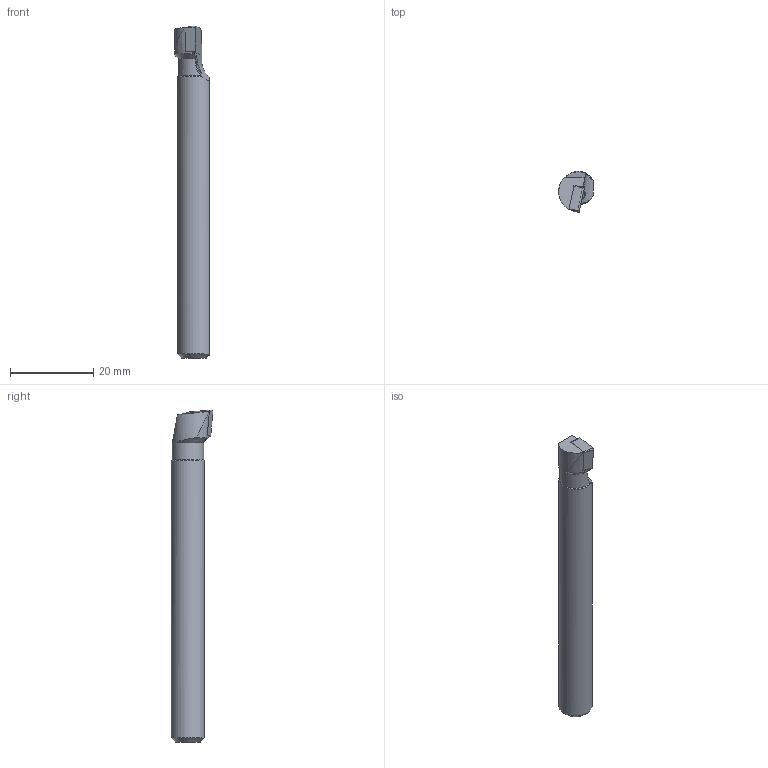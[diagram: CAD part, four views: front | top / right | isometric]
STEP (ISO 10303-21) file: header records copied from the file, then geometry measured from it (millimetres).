
FILE_DESCRIPTION(/* description */ (''),/* implementation_level */ '2;1');
FILE_NAME(/* name */ 'A08F-SCLCR-06-HAAS.stp',/* time_stamp */ '2021-09-29T09:08:39+09:00',/* author */ (''),/* organization */ (''),/* preprocessor_version */ 'ST-DEVELOPER v16.7',/* originating_system */ 'SIEMENS PLM Software NX 1946',/* authorisation */ '');
FILE_SCHEMA (('AUTOMOTIVE_DESIGN { 1 0 10303 214 3 1 1 1 }'));
Length unit declared in the file: millimetre
Products named in the file (1): user0130CD5E65mn
Bounding box: 8.34 x 10.01 x 79.98 mm (x, y, z)
Volume: 3368.4 mm3; surface area: 2820.8 mm2
Topology: 2 solids, 2 shells, 28 faces, 72 edges, 48 vertices
Faces by surface type: plane 12, cone 10, cylinder 6
Full cylindrical faces by diameter (mm): 2 x1, 3 x1
Entity records: 945 total; most frequent: CARTESIAN_POINT 252, ORIENTED_EDGE 134, DIRECTION 132, EDGE_CURVE 67, AXIS2_PLACEMENT_3D 53, VERTEX_POINT 46, EDGE_LOOP 33, ADVANCED_FACE 28
